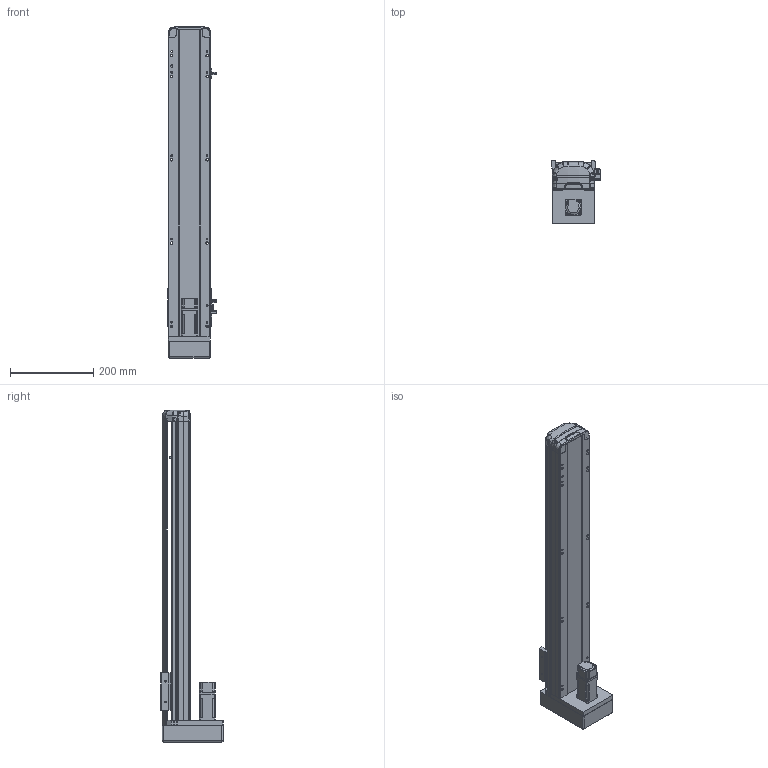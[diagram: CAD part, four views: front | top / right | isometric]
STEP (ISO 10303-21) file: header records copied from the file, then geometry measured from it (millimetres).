
FILE_DESCRIPTION (( 'STEP AP214' ), '1' );
FILE_NAME ('RTH10-XX-550-M-M10-C4.STEP', '2025-10-25T05:45:40', ( 'Microsoft' ), ( 'Microsoft' ), 'SwSTEP 2.0', 'SolidWorks 2018', '' );
FILE_SCHEMA (( 'AUTOMOTIVE_DESIGN' ));
Length unit declared in the file: millimetre
Products named in the file (10): N_P10^RTH10-XX-100-M-M10-C4; N_RTH13-L-012覜茼え俋离^RTH10-XX-100-M-M10-C4; N_RTH12-GY-001P^RTH10-XX-100-M-M10-C4; N_RTH12-M-008-萇儂啣^RTH10-XX-100-M-M10-C4; N_OMRON EE-SX672 传感器^RTH10-XX-100-M-M10-C4; N_RTH12-M-007P-奻裔^RTH10-XX-100-M-M10-C4; N_RTH12-M-011P-臏倰第菁釱^RTH10-XX-100-M-M10-C4; N_RTH12-M-018-裔赽^RTH10-XX-100-M-M10-C4; RTH10-XX-550-M-M10-C4; N_RTH12-GY-004-賑釱^RTH10-XX-100-M-M10-C4
Assembly tree (11 placements, depth 2):
  RTH10-XX-550-M-M10-C4
    N_RTH12-M-011P-臏倰第菁釱^RTH10-XX-100-M-M10-C4
    N_RTH13-L-012覜茼え俋离^RTH10-XX-100-M-M10-C4
    N_OMRON EE-SX672 传感器^RTH10-XX-100-M-M10-C4  x3
    N_P10^RTH10-XX-100-M-M10-C4
    N_RTH12-M-007P-奻裔^RTH10-XX-100-M-M10-C4
    N_RTH12-M-008-萇儂啣^RTH10-XX-100-M-M10-C4
    N_RTH12-M-018-裔赽^RTH10-XX-100-M-M10-C4
    N_RTH12-GY-004-賑釱^RTH10-XX-100-M-M10-C4
    N_RTH12-GY-001P^RTH10-XX-100-M-M10-C4
Bounding box: 116.5 x 149 x 797.14 mm (x, y, z)
Volume: 3757834.7 mm3; surface area: 570164 mm2
Topology: 10 solids, 12 shells, 1933 faces, 5395 edges, 3539 vertices
Faces by surface type: plane 955, bspline 472, cylinder 471, cone 29, sphere 4, torus 2
Entity records: 58187 total; most frequent: CARTESIAN_POINT 23167, ORIENTED_EDGE 7862, DIRECTION 6033, EDGE_CURVE 3937, VERTEX_POINT 2583, VECTOR 2071, LINE 2071, AXIS2_PLACEMENT_3D 1981
